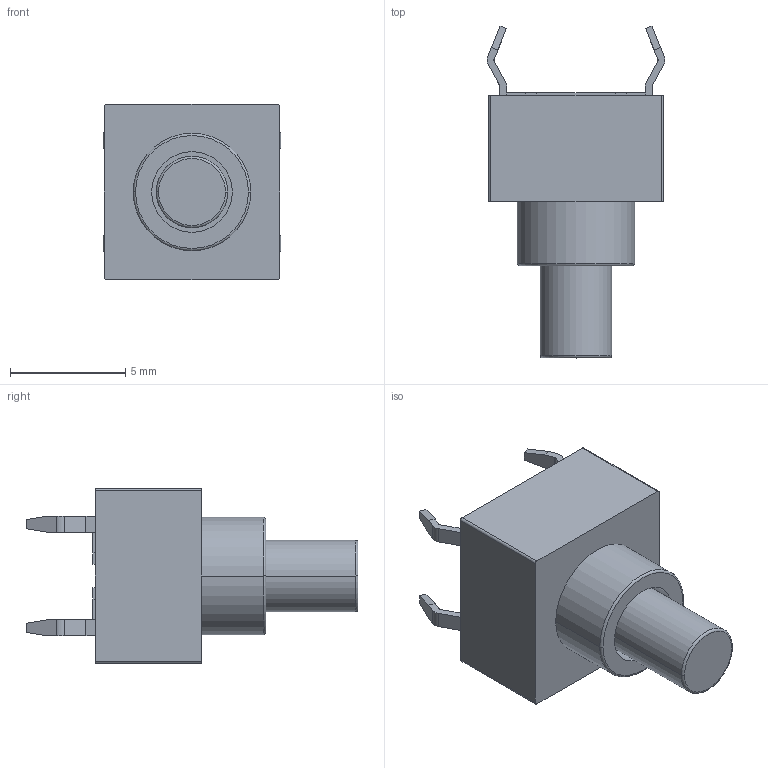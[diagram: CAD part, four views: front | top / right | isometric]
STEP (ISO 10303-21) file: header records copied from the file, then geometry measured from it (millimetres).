
FILE_DESCRIPTION((''),'2;1');
FILE_NAME('JQB6060-C1151-01GH-101_ASM','2026-07-02T14:46:40',('Admin'),(''),'CREO PARAMETRIC BY PTC INC, 2019224','CREO PARAMETRIC BY PTC INC, 2019224','');
FILE_SCHEMA(('AUTOMOTIVE_DESIGN { 1 0 10303 214 1 1 1 1 }'));
Length unit declared in the file: millimetre
Products named in the file (3): JQB6060-C1151-01GH-101_01; JQB6060-C1151-01GH-101_02; JQB6060-C1151-01GH-101_ASM
Assembly tree (2 placements, depth 2):
  JQB6060-C1151-01GH-101_ASM
    JQB6060-C1151-01GH-101_01
    JQB6060-C1151-01GH-101_02
Bounding box: 7.72 x 14.4 x 7.6 mm (x, y, z)
Volume: 380.1 mm3; surface area: 531.7 mm2
Topology: 2 solids, 2 shells, 112 faces, 311 edges, 210 vertices
Faces by surface type: plane 84, cylinder 24, torus 4
Entity records: 5352 total; most frequent: CARTESIAN_POINT 643, ORIENTED_EDGE 616, DIRECTION 609, PRESENTATION_STYLE_ASSIGNMENT 370, STYLED_ITEM 316, CURVE_STYLE 314, EDGE_CURVE 308, VECTOR 255
